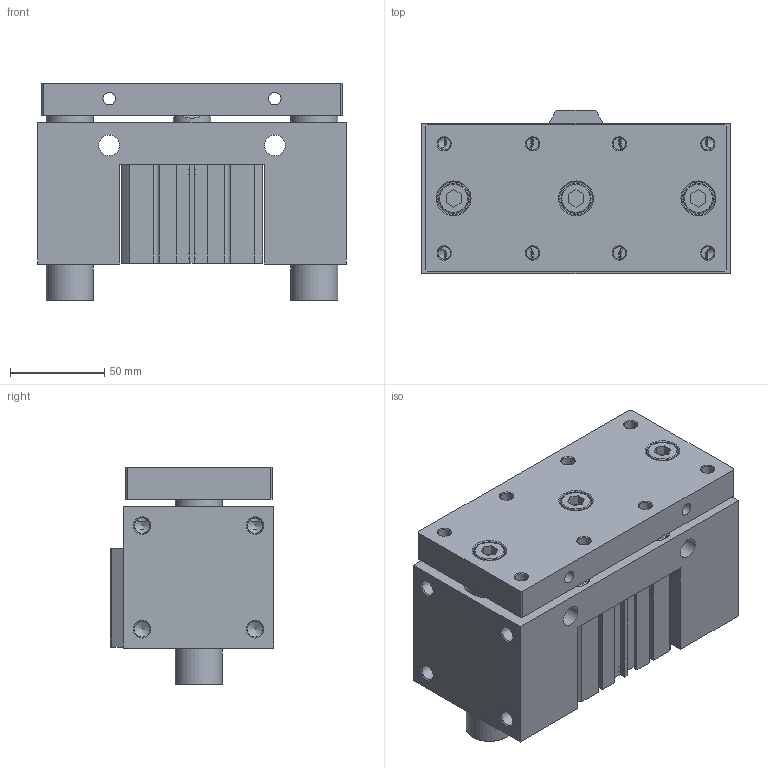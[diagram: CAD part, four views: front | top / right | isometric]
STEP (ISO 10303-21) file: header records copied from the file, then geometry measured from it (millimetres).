
FILE_DESCRIPTION((''),'2;1');
FILE_NAME('I:\3D電子目錄\氣缸\JCB\JCB\JCB63\JCB63x20.stp','2007-09-01T15:16:45',('Administrator'),(''),'Autodesk Inventor 11','Autodesk Inventor 11','');
FILE_SCHEMA(('AUTOMOTIVE_DESIGN { 1 0 10303 214 1 1 1 1 }'));
Length unit declared in the file: millimetre
Products named in the file (1): JCB63
Bounding box: 164 x 87 x 115.5 mm (x, y, z)
Volume: 1102342.2 mm3; surface area: 183523.5 mm2
Topology: 3 solids, 5 shells, 343 faces, 829 edges, 538 vertices
Faces by surface type: plane 186, cylinder 62, cone 47, bspline 40, torus 8
Full cylindrical faces by diameter (mm): 3 x2, 6.8 x4, 8.376 x4, 11 x8, 13 x4, 14 x4, 16 x3, 17.5 x3, 20 x1, 21 x1, 25 x2, 28 x2, 40 x1, 47 x1, 65 x4, 68 x2
Entity records: 10008 total; most frequent: CARTESIAN_POINT 2670, DIRECTION 1474, ORIENTED_EDGE 1320, EDGE_CURVE 660, EDGE_LOOP 554, AXIS2_PLACEMENT_3D 532, VERTEX_POINT 498, VECTOR 410
